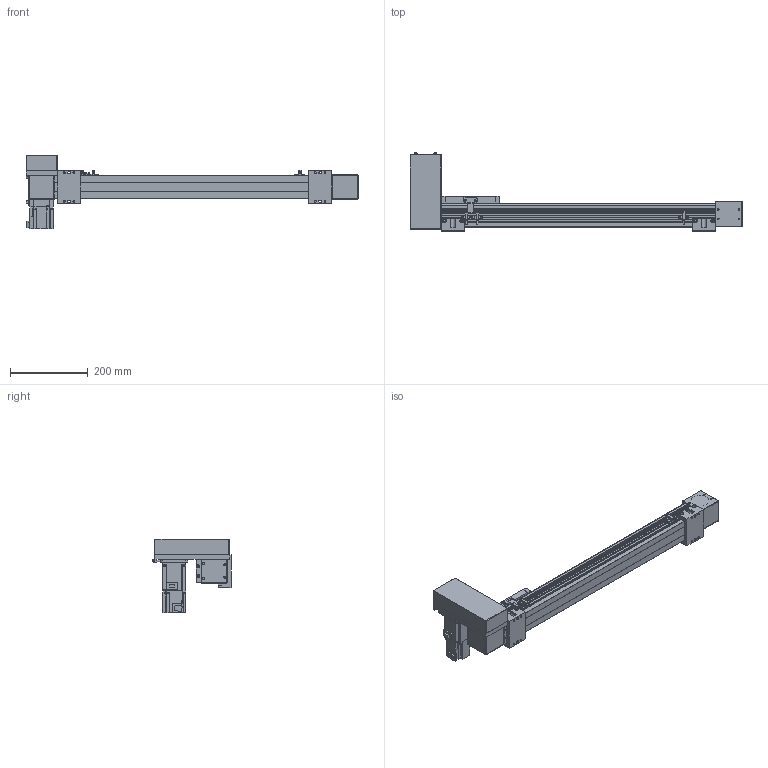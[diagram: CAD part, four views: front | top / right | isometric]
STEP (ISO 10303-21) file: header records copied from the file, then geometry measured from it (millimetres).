
FILE_DESCRIPTION(/* description */ ('STEP AP214'),/* implementation_level */ '2;1');
FILE_NAME(/* name */ 'SK60-P13-S550-RU-T40-C1-N(0)',/* time_stamp */ '2023-04-06T05:02:14+02:00',/* author */ ('License CC BY-ND 4.0'),/* organization */ ('CADENAS'),/* preprocessor_version */ 'ST-DEVELOPER v19.3',/* originating_system */ 'PARTsolutions',/* authorisation */ ' ');
FILE_SCHEMA (('AUTOMOTIVE_DESIGN {1 0 10303 214 3 1 1}'));
Length unit declared in the file: millimetre
Products named in the file (10): SK60-P13-S550-RU-T40-C1-N(0); PSC140-sensor; SK60-S450_seat; SK60-S450-BL-C1_slider; SK60_body3; SK60_body6; SK60-BL_body2; T40-p1; SK60-RU_fb; SK60-S550-RU-C1_body
Assembly tree (16 placements, depth 2):
  SK60-P13-S550-RU-T40-C1-N(0)
    PSC140-sensor  x3
    SK60-S450_seat  x2
    SK60-S450-BL-C1_slider
    SK60_body3  x3
    SK60_body6  x2
    SK60-BL_body2  x2
    T40-p1
    SK60-RU_fb
    SK60-S550-RU-C1_body
Bounding box: 855.5 x 201 x 189.7 mm (x, y, z)
Volume: 4131013.3 mm3; surface area: 547986 mm2
Topology: 16 solids, 16 shells, 810 faces, 2048 edges, 1349 vertices
Faces by surface type: plane 524, cylinder 262, cone 22, torus 2
Full cylindrical faces by diameter (mm): 2.8 x3, 3.3 x4, 4 x2, 4.5 x30, 4.6 x3, 4.917 x16, 5 x6, 5.478 x4, 5.5 x19, 6.5 x4, 7 x2, 8 x4, 8.5 x4, 9.988 x4, 10 x8, 14 x1, 47 x3, 50 x2
Entity records: 18655 total; most frequent: DIRECTION 3184, CARTESIAN_POINT 3150, ORIENTED_EDGE 2940, EDGE_CURVE 1470, AXIS2_PLACEMENT_3D 1068, LINE 1048, VECTOR 1048, VERTEX_POINT 1034
